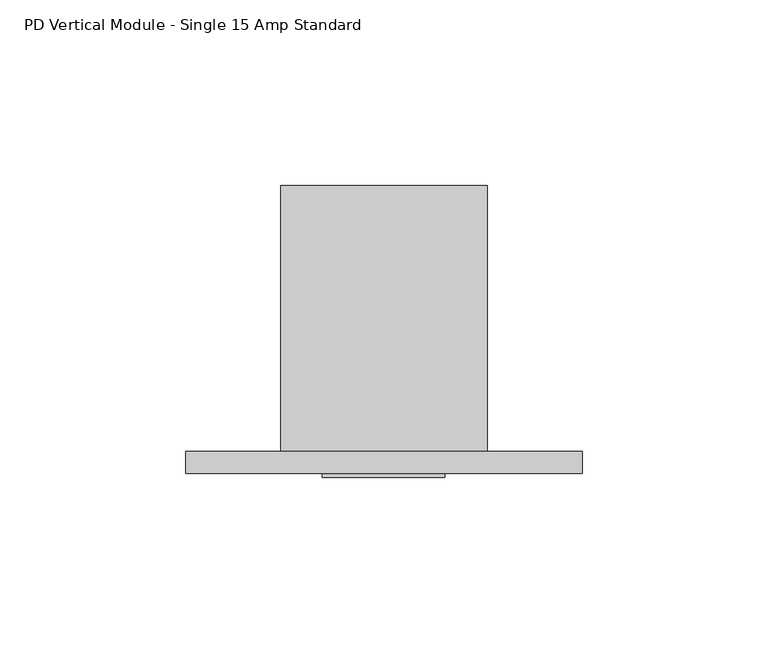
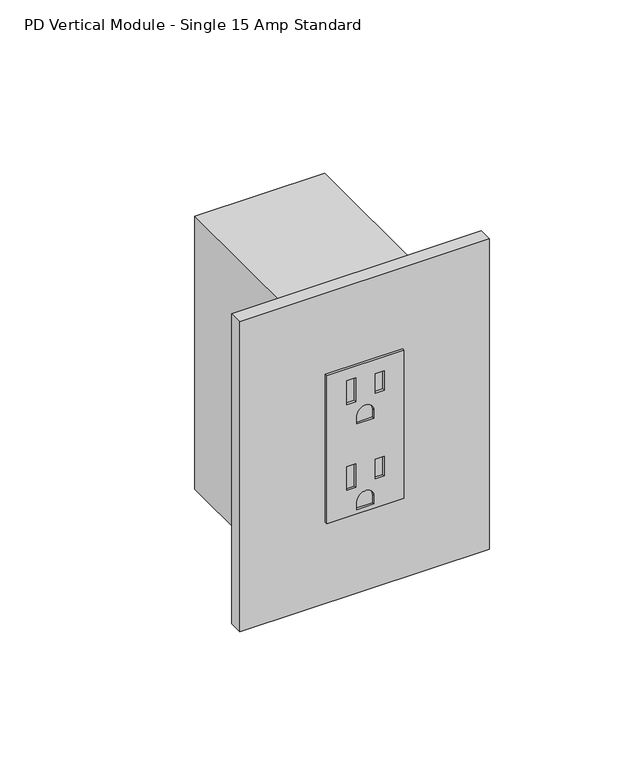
"""IFC4 building model written with IfcOpenShell, lengths in millimetres: proxy geometry, Electrical-Teknion-EPDMS_Vertical_Power_Data_Single-R2019 : PD Vertical Module - Single 15 Amp Standard."""

import ifcopenshell
import ifcopenshell.guid

model = None  # the IFC model being written
_history = None  # IfcOwnerHistory: only IFC2X3 demands one
_inside = {}  # id of a spatial element -> (the spatial element, [elements in it])
_under = {}  # id of a project, library or spatial element -> (it, [spatial elements below it])
_declared = {}  # id of a project -> (the project, [libraries it declares])
_typed = {}  # id of a type object -> (the type object, [elements of that type])
_made_of = {}  # id of a material, layer set ... -> (it, [elements and type objects made of it])


def new_model(schema):
    """Start an empty IFC model of exactly this schema.

    Asked for "IFC4X3", IfcOpenShell would pick the latest addendum, in which some entities
    have other attributes; the version numbers below select the first issue.
    IFC2X3 requires an IfcOwnerHistory on every rooted entity: one is made here for all.
    """
    global model, _history
    if schema == "IFC4X3":
        model = ifcopenshell.file(schema_version=(4, 3, 0, 0))
    else:
        model = ifcopenshell.file(schema=schema)
    _inside.clear()
    _under.clear()
    _declared.clear()
    _typed.clear()
    _made_of.clear()
    _history = None
    if model.schema == "IFC2X3":
        org = make("IfcOrganization", Name="unknown")
        user = make(
            "IfcPersonAndOrganization",
            ThePerson=make("IfcPerson", FamilyName="unknown"),
            TheOrganization=org,
        )
        app = make(
            "IfcApplication",
            ApplicationDeveloper=org,
            Version="unknown",
            ApplicationFullName="unknown",
            ApplicationIdentifier="unknown",
        )
        _history = make(
            "IfcOwnerHistory",
            OwningUser=user,
            OwningApplication=app,
            ChangeAction="ADDED",
            CreationDate=0,
        )
    return model


def make(cls, **values):
    """One entity of the class cls with the attributes given. An attribute that is None is left unset."""
    return model.create_entity(
        cls, **{name: value for name, value in values.items() if value is not None}
    )


def rooted(cls, **values):
    """An entity with a GlobalId (a new one), such as an element, a storey or a relation."""
    return make(cls, GlobalId=ifcopenshell.guid.new(), OwnerHistory=_history, **values)


def si_unit(unit_type, name, prefix=None):
    """IfcSIUnit, for example si_unit("LENGTHUNIT", "METRE", prefix="MILLI")."""
    return make("IfcSIUnit", UnitType=unit_type, Prefix=prefix, Name=name)


def assignment(units):
    """IfcUnitAssignment: the units of a project."""
    return None if units is None else make("IfcUnitAssignment", Units=units)


def point(xyz):
    """IfcCartesianPoint."""
    return None if xyz is None else make("IfcCartesianPoint", Coordinates=xyz)


def direction(xyz):
    """IfcDirection."""
    return None if xyz is None else make("IfcDirection", DirectionRatios=xyz)


def frame(location, z_axis=None, x_axis=None):
    """IfcAxis2Placement3D, a coordinate frame: its origin and axes. An axis left out is left unset."""
    return make(
        "IfcAxis2Placement3D",
        Location=point(location),
        Axis=direction(z_axis),
        RefDirection=direction(x_axis),
    )


def frame_2d(location, x_axis=None):
    """IfcAxis2Placement2D, a coordinate frame in the plane: its origin and x axis."""
    return make(
        "IfcAxis2Placement2D", Location=point(location), RefDirection=direction(x_axis)
    )


def origin():
    """The frame at (0, 0, 0) with its axes left unset."""
    return frame((0.0, 0.0, 0.0))


def place(relative_to, where):
    """IfcLocalPlacement: puts the frame where relative to a parent placement (None: the world)."""
    return make(
        "IfcLocalPlacement", PlacementRelTo=relative_to, RelativePlacement=where
    )


def context(
    kind, dimensions, precision=None, world=None, true_north=None, identifier=None
):
    """IfcGeometricRepresentationContext, for example the 3D "Model" context."""
    return make(
        "IfcGeometricRepresentationContext",
        ContextIdentifier=identifier,
        ContextType=kind,
        CoordinateSpaceDimension=dimensions,
        Precision=precision,
        WorldCoordinateSystem=world,
        TrueNorth=true_north,
    )


def project(units=None, contexts=None):
    """IfcProject with its units and contexts."""
    return rooted(
        "IfcProject",
        Name="project",
        RepresentationContexts=contexts,
        UnitsInContext=assignment(units),
    )


def spatial(cls, under=None, at=None, **own):
    """A site, building, storey or space (cls), placed at a placement, below another one or the project."""
    s = rooted(cls, ObjectPlacement=at, **own)
    if under is not None:
        _under.setdefault(under.id(), (under, []))[1].append(s)
    return s


def polyline(points):
    """IfcPolyline through the points."""
    return make("IfcPolyline", Points=[point(p) for p in points])


def circle_curve(where, radius):
    """IfcCircle in the frame where."""
    return make("IfcCircle", Position=where, Radius=radius)


def trimmed(basis, trim1, trim2, sense, master):
    """IfcTrimmedCurve: the piece of a basis curve between two trims."""
    return make(
        "IfcTrimmedCurve",
        BasisCurve=basis,
        Trim1=trim1,
        Trim2=trim2,
        SenseAgreement=sense,
        MasterRepresentation=master,
    )


def segment(curve, same_sense, transition):
    """IfcCompositeCurveSegment."""
    return make(
        "IfcCompositeCurveSegment",
        Transition=transition,
        SameSense=same_sense,
        ParentCurve=curve,
    )


def composite_curve(segments, self_intersect=None):
    """IfcCompositeCurve: segments joined end to end."""
    return make("IfcCompositeCurve", Segments=segments, SelfIntersect=self_intersect)


def outline(outer, holes=None, kind="AREA"):
    """IfcArbitraryClosedProfileDef: a profile drawn as a closed curve; with holes, ...WithVoids."""
    if holes is None:
        return make("IfcArbitraryClosedProfileDef", ProfileType=kind, OuterCurve=outer)
    return make(
        "IfcArbitraryProfileDefWithVoids",
        ProfileType=kind,
        OuterCurve=outer,
        InnerCurves=holes,
    )


def extrude(swept, where, along, depth):
    """IfcExtrudedAreaSolid: the profile swept, set in the frame where, extruded along a direction by depth."""
    return make(
        "IfcExtrudedAreaSolid",
        SweptArea=swept,
        Position=where,
        ExtrudedDirection=direction(along),
        Depth=depth,
    )


def shape(context_of_items, identifier, shape_type, items):
    """IfcShapeRepresentation: the items that make up one representation, for example the "Body"."""
    return make(
        "IfcShapeRepresentation",
        ContextOfItems=context_of_items,
        RepresentationIdentifier=identifier,
        RepresentationType=shape_type,
        Items=items,
    )


def source(mapping_origin, context_of_items, identifier, shape_type, items):
    """IfcRepresentationMap: a shape defined once, which mapped items show again and again."""
    return make(
        "IfcRepresentationMap",
        MappingOrigin=mapping_origin,
        MappedRepresentation=shape(context_of_items, identifier, shape_type, items),
    )


def transform(
    local_origin,
    x_axis=None,
    y_axis=None,
    z_axis=None,
    scale=None,
    scale2=None,
    scale3=None,
    uniform=True,
):
    """IfcCartesianTransformationOperator3D, or its non-uniform kind. x_axis, y_axis, z_axis: its Axis1, 2, 3."""
    if uniform:
        return make(
            "IfcCartesianTransformationOperator3D",
            Axis1=direction(x_axis),
            Axis2=direction(y_axis),
            LocalOrigin=point(local_origin),
            Scale=scale,
            Axis3=direction(z_axis),
        )
    return make(
        "IfcCartesianTransformationOperator3DnonUniform",
        Axis1=direction(x_axis),
        Axis2=direction(y_axis),
        LocalOrigin=point(local_origin),
        Scale=scale,
        Axis3=direction(z_axis),
        Scale2=scale2,
        Scale3=scale3,
    )


def mapped(mapping_source, mapping_target):
    """IfcMappedItem: shows the shape of a source again, moved by a transform."""
    return make(
        "IfcMappedItem", MappingSource=mapping_source, MappingTarget=mapping_target
    )


def made_of(thing, what):
    """Note that an element or type object is made of a material, layer set ...; save() writes the relation."""
    if what is not None:
        _made_of.setdefault(what.id(), (what, []))[1].append(thing)
    return thing


def element(
    cls,
    number,
    at=None,
    inside=None,
    cuts=None,
    type_object=None,
    material=None,
    context=None,
    identifier="Body",
    shape_type=None,
    held_by="IfcProductDefinitionShape",
    body=None,
    shapes=None,
    **own,
):
    """One element of the class cls, such as IfcWall. Its Tag is "e" and its number.

    at: its placement. inside: the storey or other place that contains it. cuts: it is an
    opening in that element (IfcRelVoidsElement). A single representation is given by context,
    identifier, shape_type and body (its items); several are given by shapes. held_by: the class
    of the entity that holds the representations. save() writes the other relations.
    """
    e = rooted(cls, Tag="e%d" % number, ObjectPlacement=at, **own)
    if body is not None:
        shapes = [shape(context, identifier, shape_type, body)]
    if shapes is not None:
        e.Representation = make(held_by, Representations=shapes)
    if inside is not None:
        _inside.setdefault(inside.id(), (inside, []))[1].append(e)
    if cuts is not None:
        rooted(
            "IfcRelVoidsElement", RelatingBuildingElement=cuts, RelatedOpeningElement=e
        )
    if type_object is not None:
        _typed.setdefault(type_object.id(), (type_object, []))[1].append(e)
    return made_of(e, material)


def aggregate(whole, parts):
    """IfcRelAggregates: a whole, such as a stair, and the parts it consists of."""
    return rooted("IfcRelAggregates", RelatingObject=whole, RelatedObjects=parts)


def save(model, path):
    """Write the relations noted so far, then the file.

    IfcRelAggregates (storeys below a building ...), IfcRelContainedInSpatialStructure (elements
    in a storey), IfcRelDefinesByType, IfcRelAssociatesMaterial and IfcRelDeclares: one each for
    every whole, place, type object, material and project.
    """
    for whole, parts in _under.values():
        aggregate(whole, parts)
    for where, things in _inside.values():
        rooted(
            "IfcRelContainedInSpatialStructure",
            RelatedElements=things,
            RelatingStructure=where,
        )
    for kind, things in _typed.values():
        rooted("IfcRelDefinesByType", RelatedObjects=things, RelatingType=kind)
    for what, things in _made_of.values():
        rooted("IfcRelAssociatesMaterial", RelatedObjects=things, RelatingMaterial=what)
    for by, libraries in _declared.values():
        rooted("IfcRelDeclares", RelatingContext=by, RelatedDefinitions=libraries)
    model.write(path)


def pd_vertical_module_single_15_amp_standard_b1616907(model_context):
    return source(origin(), model_context, "Body", "SweptSolid", [
        extrude(outline(polyline([(490.6772, 44.0944), (490.6772, 11.0998), (423.7228, 11.0998), (423.7228, 44.0944), (490.6772, 44.0944)]), holes=[polyline([(485.2924, 23.4442), (474.472, 23.4442), (474.472, 19.6088), (485.2924, 19.6088), (485.2924, 23.4442)]), polyline([(484.3145, 35.6108), (475.4499, 35.6108), (475.4499, 31.7754), (484.3145, 31.7754), (484.3145, 35.6108)]), composite_curve([segment(polyline([(464.2866, 31.2293), (464.2866, 23.9649), (467.9188, 23.9649)]), True, "CONTINUOUS"), segment(trimmed(circle_curve(frame_2d((467.9188, 27.5971)), 3.6322), [point((467.9188, 23.9649))], [point((467.9188, 31.2293))], True, "CARTESIAN"), True, "CONTINUOUS"), segment(polyline([(467.9188, 31.2293), (464.2866, 31.2293)]), True, "CONTINUOUS")], self_intersect=False), polyline([(446.5574, 23.4442), (435.737, 23.4442), (435.737, 19.6088), (446.5574, 19.6088), (446.5574, 23.4442)]), polyline([(445.5795, 35.6108), (436.7149, 35.6108), (436.7149, 31.7754), (445.5795, 31.7754), (445.5795, 35.6108)]), composite_curve([segment(polyline([(425.5516, 31.2293), (425.5516, 23.9649), (429.1838, 23.9649)]), True, "CONTINUOUS"), segment(trimmed(circle_curve(frame_2d((429.1838, 27.5971)), 3.6322), [point((429.1838, 23.9649))], [point((429.1838, 31.2293))], True, "CARTESIAN"), True, "CONTINUOUS"), segment(polyline([(429.1838, 31.2293), (425.5516, 31.2293)]), True, "CONTINUOUS")], self_intersect=False)]), frame((0.0, -6.9294746, 0.0), z_axis=(0.0, 1.0, 0.0), x_axis=(0.0, 0.0, 1.0)), (0.0, 0.0, 1.0), 1.0366746),
        extrude(outline(polyline([(-25.6794, 0.0), (81.2292, 0.0), (81.2292, -5.8928), (-25.6794, -5.8928), (-25.6794, 0.0)])), frame((0.0, 0.0, 387.0198), z_axis=(0.0, 0.0, 1.0), x_axis=(1.0, 0.0, 0.0)), (0.0, 0.0, 1.0), 140.3604),
        extrude(outline(polyline([(55.5498, 0.0), (0.0, 0.0), (0.0, 71.7296), (55.5498, 71.7296), (55.5498, 0.0)])), frame((0.0, 0.0, 395.4526), z_axis=(0.0, 0.0, 1.0), x_axis=(1.0, 0.0, 0.0)), (0.0, 0.0, 1.0), 123.4948),
    ])


if __name__ == "__main__":
    model = new_model("IFC4")
    model_context = context("Model", 3, world=origin())
    ifc_project = project(units=[si_unit("LENGTHUNIT", "METRE", prefix="MILLI")], contexts=[model_context])
    site = spatial("IfcSite", under=ifc_project)
    building = spatial("IfcBuilding", under=site)
    placement = place(None, origin())
    pd_vertical_module_single_15_amp_standard_shape = pd_vertical_module_single_15_amp_standard_b1616907(model_context)
    element("IfcBuildingElementProxy", 1, Name="Electrical-Teknion-EPDMS_Vertical_Power_Data_Single-R2019 : PD Vertical Module - Single 15 Amp Standard", ObjectType="Electrical-Teknion-EPDMS_Vertical_Power_Data_Single-R2019 : PD Vertical Module - Single 15 Amp Standard", at=placement, inside=building, context=model_context, shape_type="MappedRepresentation", body=[
        mapped(pd_vertical_module_single_15_amp_standard_shape, transform((0.0, 0.0, 0.0), x_axis=(1.0, 0.0, 0.0), y_axis=(0.0, 1.0, 0.0), z_axis=(0.0, 0.0, 1.0))),
    ])
    save(model, "model.ifc")
